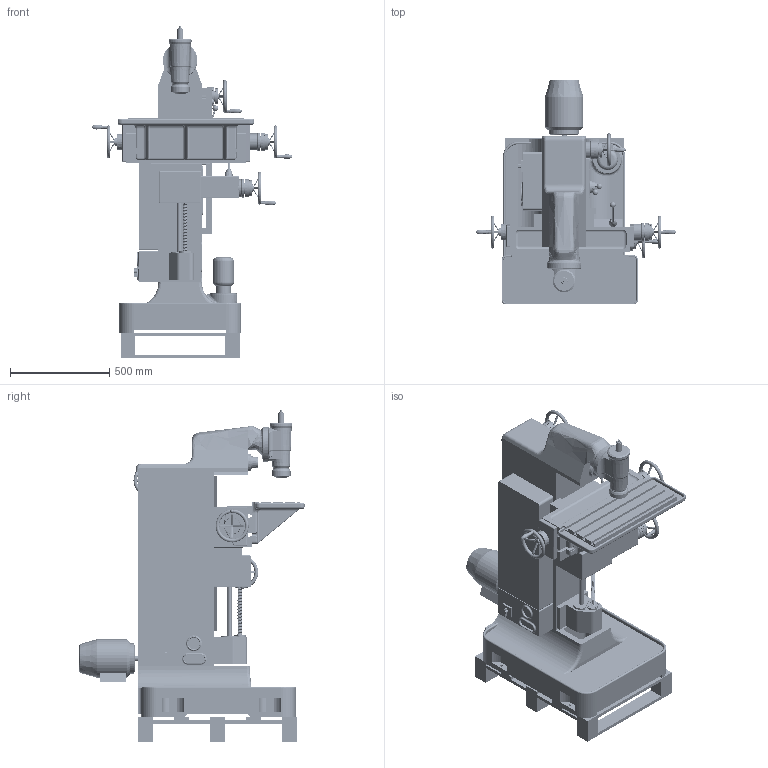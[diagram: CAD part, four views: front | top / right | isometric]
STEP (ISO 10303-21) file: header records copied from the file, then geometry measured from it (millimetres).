
FILE_DESCRIPTION (( 'STEP AP214' ), '1' );
FILE_NAME ('FUS 200 v2_defeature.STEP', '2026-08-04T11:39:48', ( '' ), ( '' ), 'SwSTEP 2.0', 'SolidWorks 2026', '' );
FILE_SCHEMA (( 'AUTOMOTIVE_DESIGN' ));
Length unit declared in the file: millimetre
Products named in the file (1): FUS 200 v2_defeature
Bounding box: 1010 x 1132.61 x 1669.73 mm (x, y, z)
Volume: 124027661 mm3; surface area: 11773542.6 mm2
Topology: 22 solids, 30 shells, 17381 faces, 45579 edges, 30136 vertices
Faces by surface type: bspline 11675, cylinder 4740, plane 714, torus 150, cone 72, sphere 30
Entity records: 755352 total; most frequent: CARTESIAN_POINT 407225, ORIENTED_EDGE 91070, EDGE_CURVE 45535, DIRECTION 36095, VERTEX_POINT 30127, B_SPLINE_CURVE_WITH_KNOTS 24987, EDGE_LOOP 19424, ADVANCED_FACE 17381
